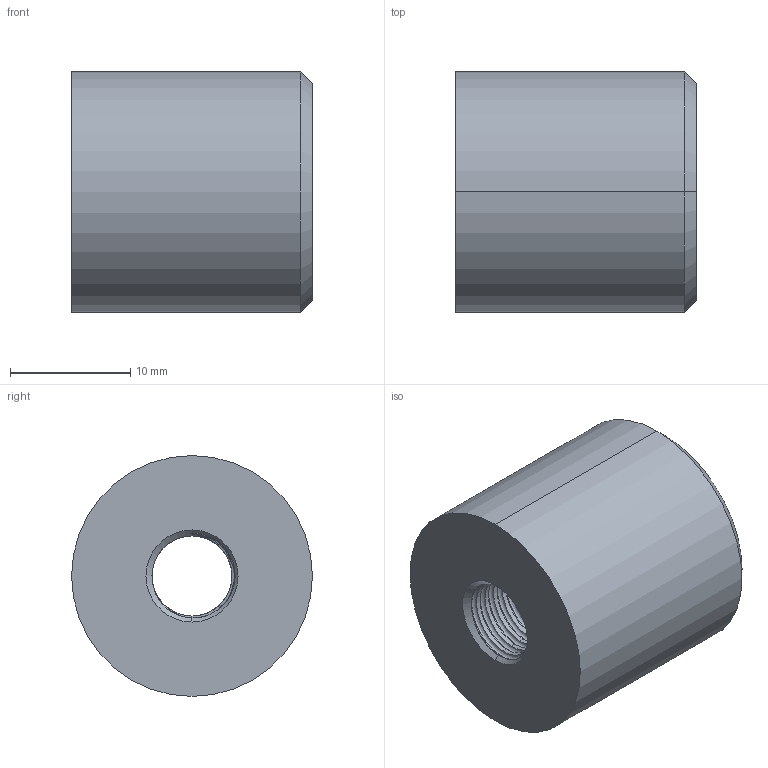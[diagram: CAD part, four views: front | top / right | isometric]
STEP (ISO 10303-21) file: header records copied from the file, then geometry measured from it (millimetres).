
FILE_DESCRIPTION (( 'STEP AP203' ), '1' );
FILE_NAME ('KD-208-6.STEP', '2009-08-13T08:56:54', ( 'kj06' ), ( 'kongjin' ), 'SwSTEP 2.0', 'SolidWorks 2007', '' );
FILE_SCHEMA (( 'CONFIG_CONTROL_DESIGN' ));
Length unit declared in the file: millimetre
Products named in the file (1): KD-208-6
Bounding box: 20 x 20 x 20 mm (x, y, z)
Volume: 5493.4 mm3; surface area: 2312.7 mm2
Topology: 1 solids, 1 shells, 52 faces, 146 edges, 96 vertices
Faces by surface type: cylinder 41, cone 7, bspline 2, plane 2
Entity records: 7662 total; most frequent: CARTESIAN_POINT 6479, ORIENTED_EDGE 292, DIRECTION 177, EDGE_CURVE 146, VERTEX_POINT 96, AXIS2_PLACEMENT_3D 65, EDGE_LOOP 54, FACE_OUTER_BOUND 52
